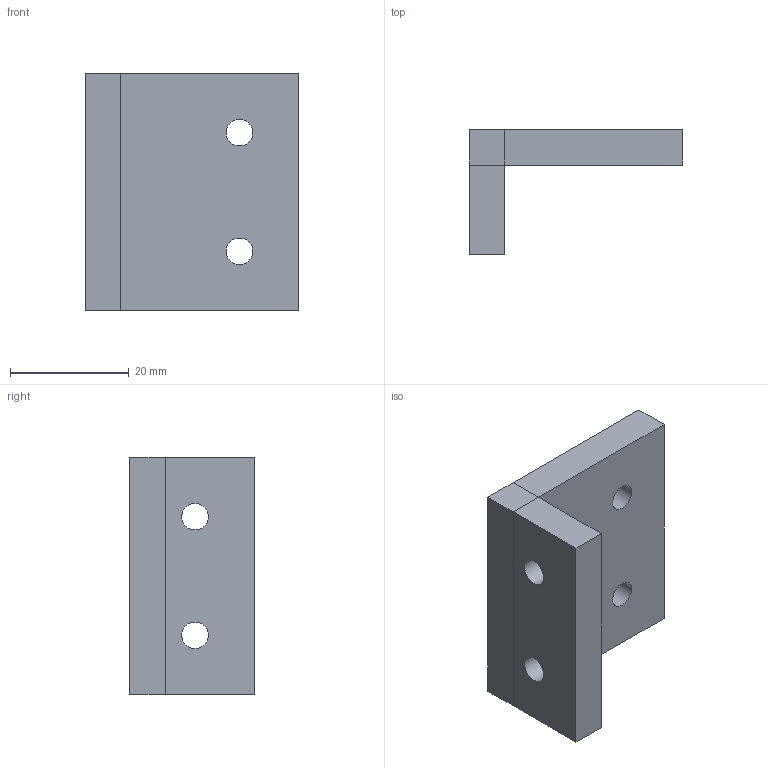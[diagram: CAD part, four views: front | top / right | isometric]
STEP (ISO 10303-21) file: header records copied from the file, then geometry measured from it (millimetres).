
FILE_DESCRIPTION(('Open CASCADE Model'),'2;1');
FILE_NAME('Open CASCADE Shape Model','2026-10-18T22:58:35',('Author'),( 'Open CASCADE'),'Open CASCADE STEP processor 7.9','Open CASCADE 7.9' ,'Unknown');
FILE_SCHEMA(('AUTOMOTIVE_DESIGN { 1 0 10303 214 1 1 1 1 }'));
Length unit declared in the file: millimetre
Products named in the file (1): Open CASCADE STEP translator 7.9 30
Bounding box: 36 x 21 x 40 mm (x, y, z)
Volume: 11858.3 mm3; surface area: 5384.1 mm2
Topology: 1 solids, 1 shells, 18 faces, 40 edges, 24 vertices
Faces by surface type: plane 14, cylinder 4
Full cylindrical faces by diameter (mm): 4.5 x4
Entity records: 1044 total; most frequent: CARTESIAN_POINT 189, DIRECTION 160, LINE 102, VECTOR 102, ORIENTED_EDGE 80, PCURVE 80, DEFINITIONAL_REPRESENTATION 80, EDGE_CURVE 40
